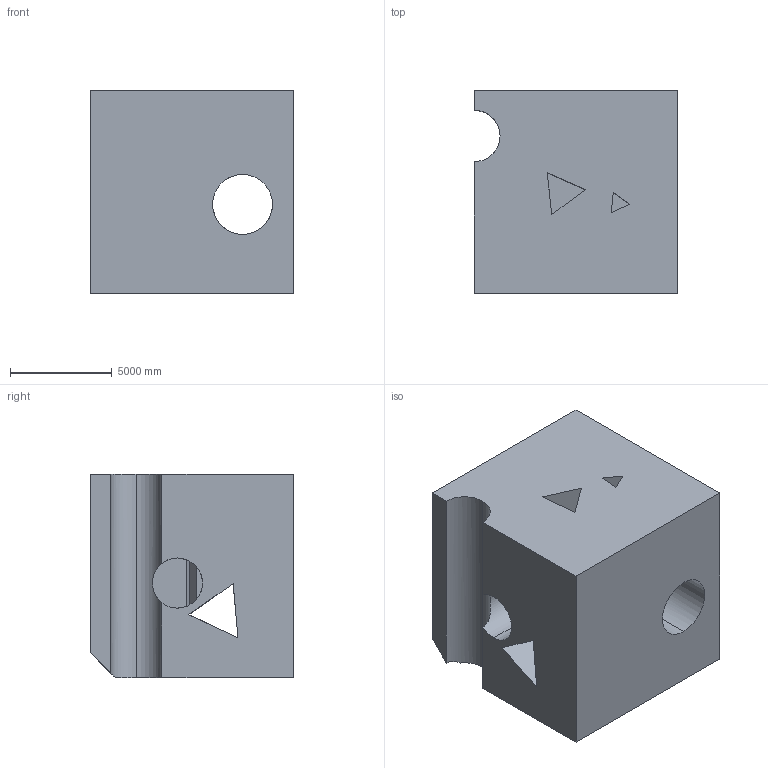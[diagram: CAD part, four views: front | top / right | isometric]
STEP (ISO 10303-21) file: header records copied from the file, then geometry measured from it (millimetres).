
FILE_DESCRIPTION (( 'STEP AP203' ), '1' );
FILE_NAME ('672.STEP', '2022-07-29T12:26:17', ( 'user' ), ( '' ), 'SwSTEP 2.0', 'SolidWorks 2021', '' );
FILE_SCHEMA (( 'CONFIG_CONTROL_DESIGN' ));
Length unit declared in the file: centimetre
Products named in the file (1): 672
Bounding box: 10000 x 10000 x 10000 mm (x, y, z)
Volume: 836684152503.7 mm3; surface area: 811754218.1 mm2
Topology: 1 solids, 1 shells, 35 faces, 111 edges, 74 vertices
Faces by surface type: plane 26, cylinder 9
Entity records: 1477 total; most frequent: CARTESIAN_POINT 439, ORIENTED_EDGE 222, DIRECTION 177, EDGE_CURVE 111, VECTOR 75, LINE 75, VERTEX_POINT 74, AXIS2_PLACEMENT_3D 51
